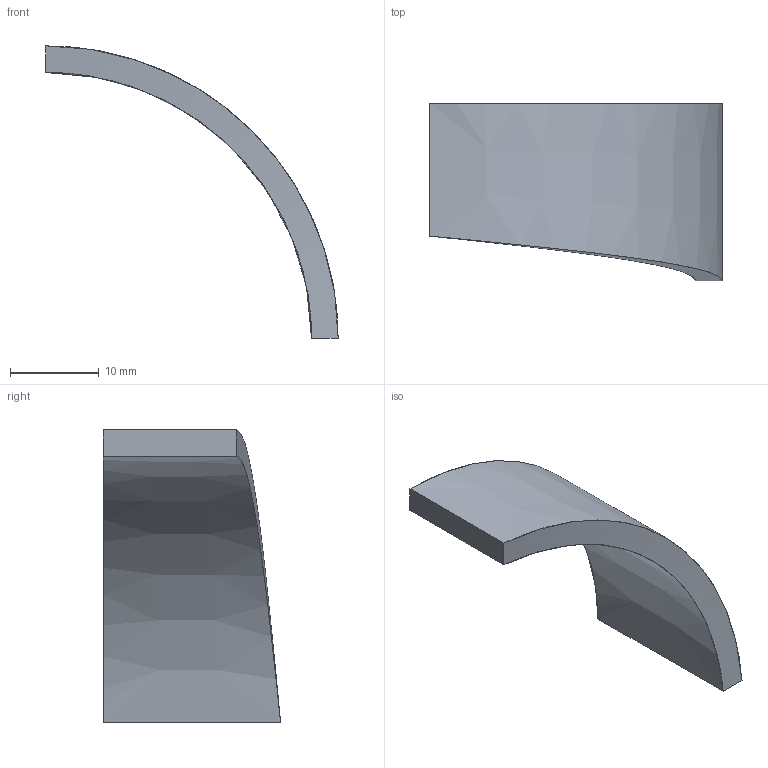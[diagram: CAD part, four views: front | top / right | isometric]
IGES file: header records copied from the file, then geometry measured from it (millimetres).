
Start section: C
Global section: file name: Pedal-RightEar.igs; native system: By Siemens PLM Incorporated; preprocessor: XPlus GENERIC/IGES 18.0.17; author: Author; organization: Title; date: 20150807.150831; units: millimetre
Bounding box: 33 x 20 x 33 mm (x, y, z)
Surface area: 2134.4 mm2 (no closed solid volume)
Topology: 0 solids, 0 shells, 6 faces, 24 edges, 24 vertices
Faces by surface type: bspline 6
